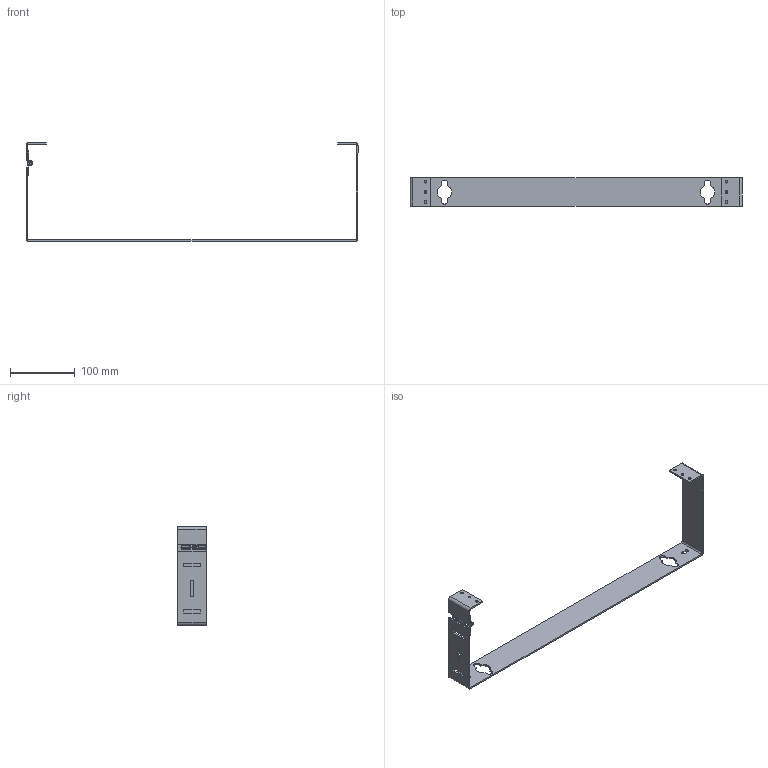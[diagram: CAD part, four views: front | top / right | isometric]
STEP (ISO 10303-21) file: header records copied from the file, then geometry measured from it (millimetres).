
FILE_DESCRIPTION (( 'STEP AP203' ), '1' );
FILE_NAME ('11001.step', '2013-07-10T10:33:01', ( '' ), ( '' ), 'SwSTEP 2.0', 'SolidWorks 2010', '' );
FILE_SCHEMA (( 'CONFIG_CONTROL_DESIGN' ));
Length unit declared in the file: millimetre
Products named in the file (7): 11001; body_swing_panel_1u; hinge_assembly_1u; hinge_pin_1; hinge1_blade_1; hinge2_blade_1; bracket_swing_panel_1u
Assembly tree (6 placements, depth 3):
  11001
    bracket_swing_panel_1u
    hinge_assembly_1u
      hinge2_blade_1
      hinge1_blade_1
      hinge_pin_1
    body_swing_panel_1u
Bounding box: 512.93 x 44.45 x 152.4 mm (x, y, z)
Volume: 92551.8 mm3; surface area: 82919.9 mm2
Topology: 5 solids, 5 shells, 145 faces, 373 edges, 237 vertices
Faces by surface type: plane 85, cylinder 58, torus 2
Entity records: 5186 total; most frequent: DIRECTION 801, CARTESIAN_POINT 763, ORIENTED_EDGE 742, EDGE_CURVE 371, AXIS2_PLACEMENT_3D 275, LINE 251, VECTOR 251, VERTEX_POINT 237
